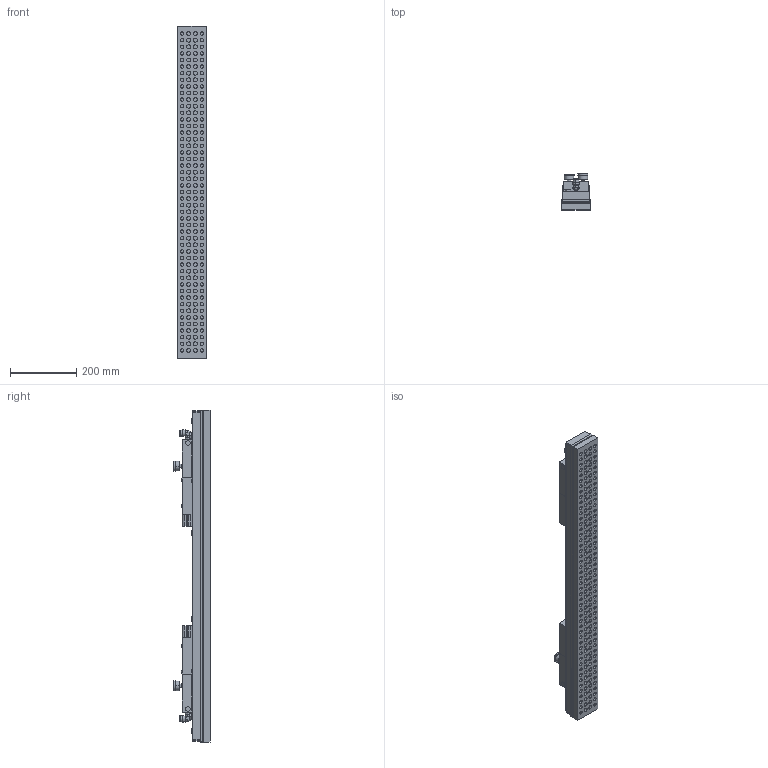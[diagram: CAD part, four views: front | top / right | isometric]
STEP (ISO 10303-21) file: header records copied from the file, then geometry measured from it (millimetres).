
FILE_DESCRIPTION (( 'STEP AP214' ), '1' );
FILE_NAME ('9671 100 012.STEP', '2012-09-12T12:42:05', ( 'cad' ), ( 'Microsoft' ), 'SwSTEP 2.0', 'SolidWorks 2012', '' );
FILE_SCHEMA (( 'AUTOMOTIVE_DESIGN' ));
Length unit declared in the file: millimetre
Products named in the file (1): 9671 100  012
Bounding box: 86 x 109.5 x 1006 mm (x, y, z)
Volume: 5291760.6 mm3; surface area: 558561.6 mm2
Topology: 1 solids, 1 shells, 1392 faces, 3130 edges, 2024 vertices
Faces by surface type: plane 674, cylinder 596, cone 104, sphere 10, bspline 8
Entity records: 52708 total; most frequent: CARTESIAN_POINT 7475, DIRECTION 7130, ORIENTED_EDGE 6260, EDGE_CURVE 3130, AXIS2_PLACEMENT_3D 2743, VERTEX_POINT 2024, EDGE_LOOP 1676, LINE 1644
